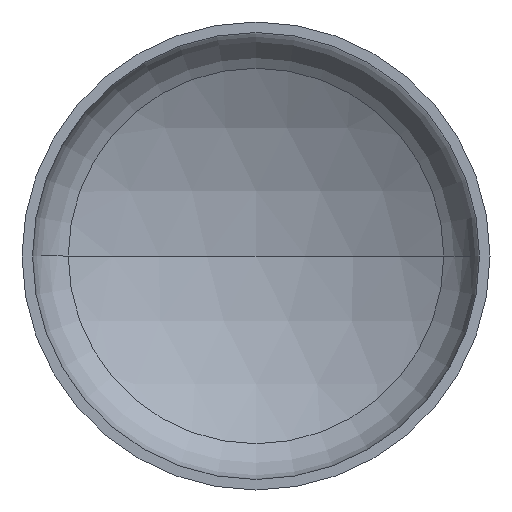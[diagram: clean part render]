
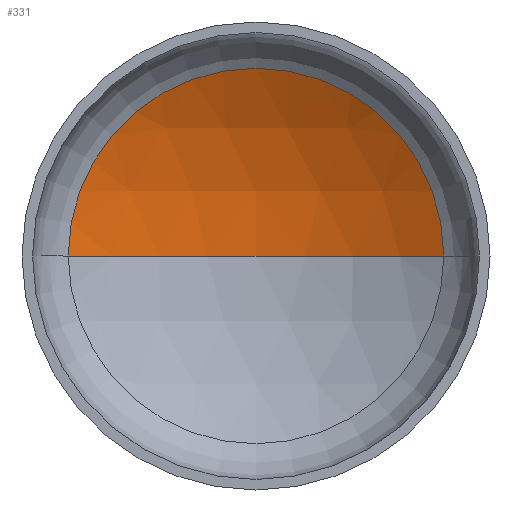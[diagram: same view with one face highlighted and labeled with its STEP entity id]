
A CAD part, front view. The second image highlights one B-rep face of the part: STEP entity #331.
In plain terms, the highlighted spherical face has radius 1280 mm.
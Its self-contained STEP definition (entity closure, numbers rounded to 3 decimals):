
#2 = DIRECTION ( 'NONE',  ( 1., 0., 0. ) ) ;
#7 = AXIS2_PLACEMENT_3D ( 'NONE', #391, #88, #136 ) ;
#13 = EDGE_LOOP ( 'NONE', ( #15, #41, #141 ) ) ;
#15 = ORIENTED_EDGE ( 'NONE', *, *, #85, .F. ) ;
#33 = AXIS2_PLACEMENT_3D ( 'NONE', #171, #335, #2 ) ;
#34 = AXIS2_PLACEMENT_3D ( 'NONE', #211, #192, #194 ) ;
#36 = AXIS2_PLACEMENT_3D ( 'NONE', #221, #218, #220 ) ;
#41 = ORIENTED_EDGE ( 'NONE', *, *, #84, .T. ) ;
#76 = VERTEX_POINT ( 'NONE', #318 ) ;
#82 = EDGE_CURVE ( 'NONE', #126, #304, #401, .T. ) ;
#84 = EDGE_CURVE ( 'NONE', #76, #126, #144, .T. ) ;
#85 = EDGE_CURVE ( 'NONE', #76, #304, #280, .T. ) ;
#87 = FACE_OUTER_BOUND ( 'NONE', #13, .T. ) ;
#88 = DIRECTION ( 'NONE',  ( 0., 0., -1. ) ) ;
#126 = VERTEX_POINT ( 'NONE', #402 ) ;
#136 = DIRECTION ( 'NONE',  ( -1., 0., 0. ) ) ;
#141 = ORIENTED_EDGE ( 'NONE', *, *, #82, .T. ) ;
#144 = CIRCLE ( 'NONE', #34, 1280. ) ;
#171 = CARTESIAN_POINT ( 'NONE',  ( 0., -785.469, 0. ) ) ;
#192 = DIRECTION ( 'NONE',  ( 0., 0., -1. ) ) ;
#194 = DIRECTION ( 'NONE',  ( -1., 0., 0. ) ) ;
#211 = CARTESIAN_POINT ( 'NONE',  ( 0., -785.469, 0. ) ) ;
#218 = DIRECTION ( 'NONE',  ( 0., -1., 0. ) ) ;
#220 = DIRECTION ( 'NONE',  ( 1., 0., 0. ) ) ;
#221 = CARTESIAN_POINT ( 'NONE',  ( 0., 321.971, 0. ) ) ;
#260 = SPHERICAL_SURFACE ( 'NONE', #7, 1280. ) ;
#280 = CIRCLE ( 'NONE', #33, 1280. ) ;
#304 = VERTEX_POINT ( 'NONE', #383 ) ;
#318 = CARTESIAN_POINT ( 'NONE',  ( 0., 494.531, 0. ) ) ;
#331 = ADVANCED_FACE ( 'NONE', ( #87 ), #260, .F. ) ;
#335 = DIRECTION ( 'NONE',  ( 0., 0., 1. ) ) ;
#383 = CARTESIAN_POINT ( 'NONE',  ( -641.855, 321.971, 0. ) ) ;
#391 = CARTESIAN_POINT ( 'NONE',  ( 0., -785.469, 0. ) ) ;
#401 = CIRCLE ( 'NONE', #36, 641.855 ) ;
#402 = CARTESIAN_POINT ( 'NONE',  ( 641.855, 321.971, 0. ) ) ;
